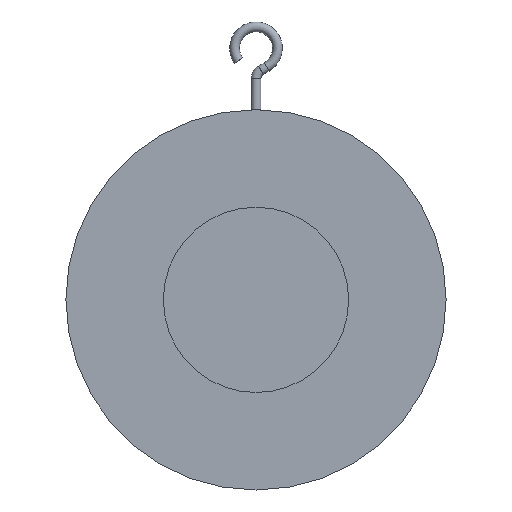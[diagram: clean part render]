
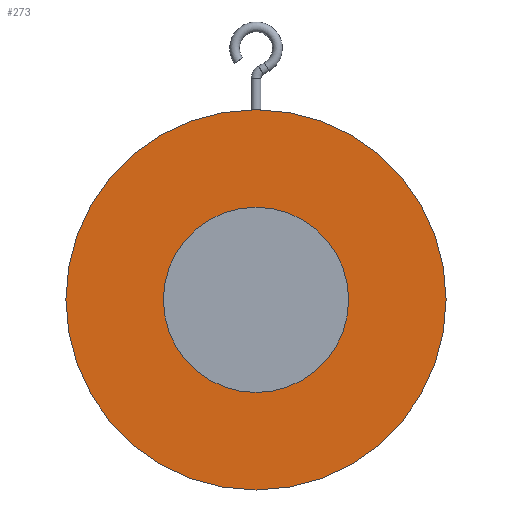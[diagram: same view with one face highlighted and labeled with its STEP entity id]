
A CAD part, front view. The second image highlights one B-rep face of the part: STEP entity #273.
In plain terms, the highlighted planar face has unit normal (0, -1, 0).
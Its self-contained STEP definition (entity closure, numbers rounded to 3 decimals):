
#273=ADVANCED_FACE('',(#525,#527),#529,.T.);
#525=FACE_BOUND('',#526,.T.);
#526=EDGE_LOOP('',(#702));
#527=FACE_BOUND('',#528,.T.);
#528=EDGE_LOOP('',(#703));
#529=PLANE('',#530);
#530=AXIS2_PLACEMENT_3D('',#531,#532,#533);
#531=CARTESIAN_POINT('',(0.,-9.5,0.));
#532=DIRECTION('',(0.,-1.,0.));
#533=DIRECTION('',(0.,0.,1.));
#702=ORIENTED_EDGE('',*,*,#772,.F.);
#703=ORIENTED_EDGE('',*,*,#774,.T.);
#772=EDGE_CURVE('',#877,#877,#878,.T.);
#774=EDGE_CURVE('',#881,#881,#882,.T.);
#877=VERTEX_POINT('',#1353);
#878=CIRCLE('',#1354,97.5);
#881=VERTEX_POINT('',#1363);
#882=CIRCLE('',#1364,47.5);
#1353=CARTESIAN_POINT('',(0.,-9.5,97.5));
#1354=AXIS2_PLACEMENT_3D('',#1355,#1356,#1357);
#1355=CARTESIAN_POINT('',(0.,-9.5,0.));
#1356=DIRECTION('',(0.,1.,0.));
#1357=DIRECTION('',(0.,0.,1.));
#1363=CARTESIAN_POINT('',(0.,-9.5,47.5));
#1364=AXIS2_PLACEMENT_3D('',#1365,#1366,#1367);
#1365=CARTESIAN_POINT('',(0.,-9.5,0.));
#1366=DIRECTION('',(0.,1.,0.));
#1367=DIRECTION('',(0.,0.,1.));
